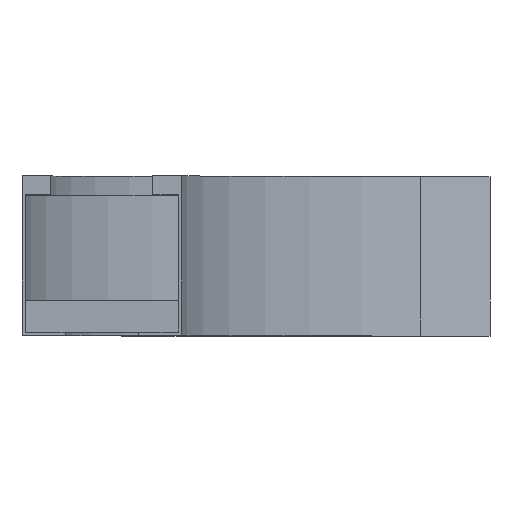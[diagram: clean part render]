
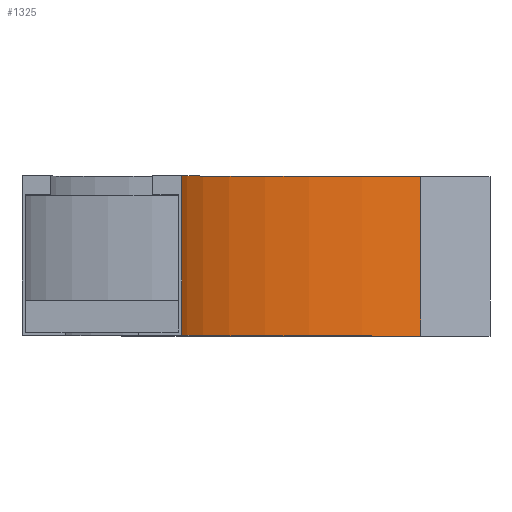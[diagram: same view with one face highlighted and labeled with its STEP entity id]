
A CAD part, top view. The second image highlights one B-rep face of the part: STEP entity #1325.
In plain terms, the highlighted cylindrical face has radius 300 mm (diameter 600 mm), a partial arc.
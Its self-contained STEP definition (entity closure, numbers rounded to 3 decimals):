
#184 = ORIENTED_EDGE ( 'NONE', *, *, #1414, .F. ) ;
#237 = AXIS2_PLACEMENT_3D ( 'NONE', #1621, #1750, #601 ) ;
#268 = EDGE_CURVE ( 'NONE', #356, #1090, #1839, .T. ) ;
#296 = DIRECTION ( 'NONE',  ( 0., 1., 0. ) ) ;
#330 = EDGE_CURVE ( 'NONE', #1181, #1090, #1078, .T. ) ;
#356 = VERTEX_POINT ( 'NONE', #1267 ) ;
#488 = VECTOR ( 'NONE', #669, 1000. ) ;
#580 = ORIENTED_EDGE ( 'NONE', *, *, #1123, .T. ) ;
#601 = DIRECTION ( 'NONE',  ( 0., 0., -1. ) ) ;
#652 = VECTOR ( 'NONE', #296, 1000. ) ;
#669 = DIRECTION ( 'NONE',  ( 0., 1., 0. ) ) ;
#746 = CARTESIAN_POINT ( 'NONE',  ( 300., 0., -50. ) ) ;
#789 = VERTEX_POINT ( 'NONE', #993 ) ;
#803 = AXIS2_PLACEMENT_3D ( 'NONE', #746, #1462, #1776 ) ;
#895 = CYLINDRICAL_SURFACE ( 'NONE', #237, 300. ) ;
#915 = CARTESIAN_POINT ( 'NONE',  ( 150., 100., -309.808 ) ) ;
#963 = ORIENTED_EDGE ( 'NONE', *, *, #268, .T. ) ;
#993 = CARTESIAN_POINT ( 'NONE',  ( 0., 0., -50. ) ) ;
#1023 = LINE ( 'NONE', #1041, #652 ) ;
#1041 = CARTESIAN_POINT ( 'NONE',  ( 0., 0., -50. ) ) ;
#1078 = CIRCLE ( 'NONE', #1341, 300. ) ;
#1090 = VERTEX_POINT ( 'NONE', #915 ) ;
#1123 = EDGE_CURVE ( 'NONE', #789, #356, #1761, .T. ) ;
#1181 = VERTEX_POINT ( 'NONE', #1291 ) ;
#1267 = CARTESIAN_POINT ( 'NONE',  ( 150., 0., -309.808 ) ) ;
#1291 = CARTESIAN_POINT ( 'NONE',  ( 0., 100., -50. ) ) ;
#1308 = FACE_OUTER_BOUND ( 'NONE', #1491, .T. ) ;
#1325 = ADVANCED_FACE ( 'NONE', ( #1308 ), #895, .F. ) ;
#1341 = AXIS2_PLACEMENT_3D ( 'NONE', #1695, #1418, #1676 ) ;
#1377 = ORIENTED_EDGE ( 'NONE', *, *, #330, .F. ) ;
#1414 = EDGE_CURVE ( 'NONE', #789, #1181, #1023, .T. ) ;
#1418 = DIRECTION ( 'NONE',  ( 0., -1., 0. ) ) ;
#1462 = DIRECTION ( 'NONE',  ( 0., -1., 0. ) ) ;
#1491 = EDGE_LOOP ( 'NONE', ( #1377, #184, #580, #963 ) ) ;
#1545 = CARTESIAN_POINT ( 'NONE',  ( 150., 0., -309.808 ) ) ;
#1621 = CARTESIAN_POINT ( 'NONE',  ( 300., 0., -50. ) ) ;
#1676 = DIRECTION ( 'NONE',  ( -1., 0., 0. ) ) ;
#1695 = CARTESIAN_POINT ( 'NONE',  ( 300., 100., -50. ) ) ;
#1750 = DIRECTION ( 'NONE',  ( 0., -1., 0. ) ) ;
#1761 = CIRCLE ( 'NONE', #803, 300. ) ;
#1776 = DIRECTION ( 'NONE',  ( -1., 0., 0. ) ) ;
#1839 = LINE ( 'NONE', #1545, #488 ) ;
